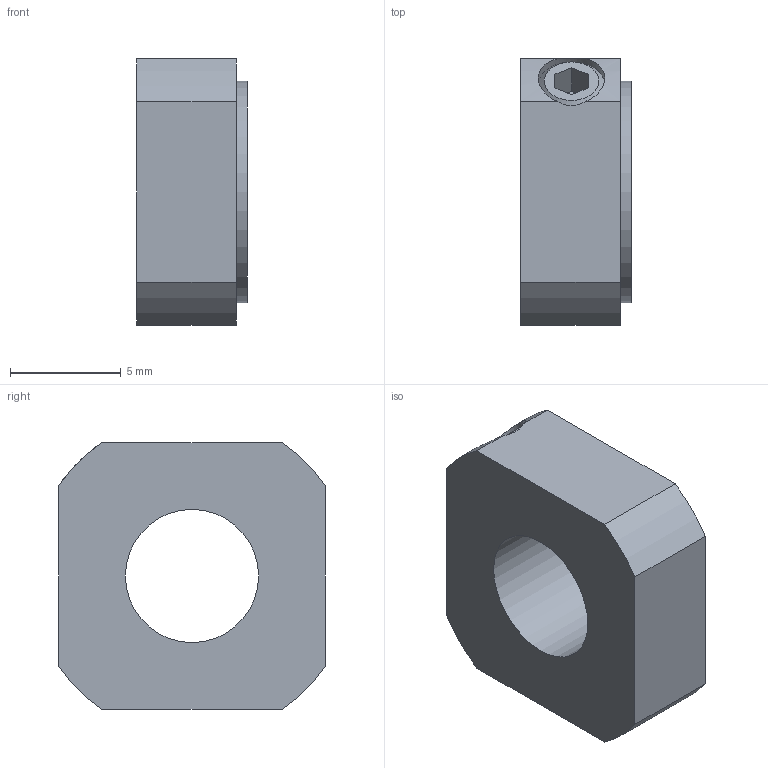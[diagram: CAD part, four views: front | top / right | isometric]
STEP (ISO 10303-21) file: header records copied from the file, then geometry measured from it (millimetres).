
FILE_DESCRIPTION((''),'2;1');
FILE_NAME('D:\製品 (図面)\カタログ用3D\ネジ関連\STEP形式\LNM\LNM6×0.75.stp','2010-06-02T14:34:22',('Tsuchiya'),(''),'Autodesk Inventor 10','Autodesk Inventor 10','');
FILE_SCHEMA(('AUTOMOTIVE_DESIGN { 1 0 10303 214 1 1 1 1 }'));
Length unit declared in the file: millimetre
Products named in the file (1): LNM6×0.75
Bounding box: 5 x 12 x 12 mm (x, y, z)
Volume: 512.3 mm3; surface area: 536.4 mm2
Topology: 1 solids, 1 shells, 24 faces, 61 edges, 41 vertices
Faces by surface type: plane 15, cylinder 7, cone 1, bspline 1
Full cylindrical faces by diameter (mm): 3 x1, 10 x1
Entity records: 780 total; most frequent: CARTESIAN_POINT 186, DIRECTION 116, ORIENTED_EDGE 112, EDGE_CURVE 56, AXIS2_PLACEMENT_3D 40, VERTEX_POINT 40, VECTOR 36, LINE 36
